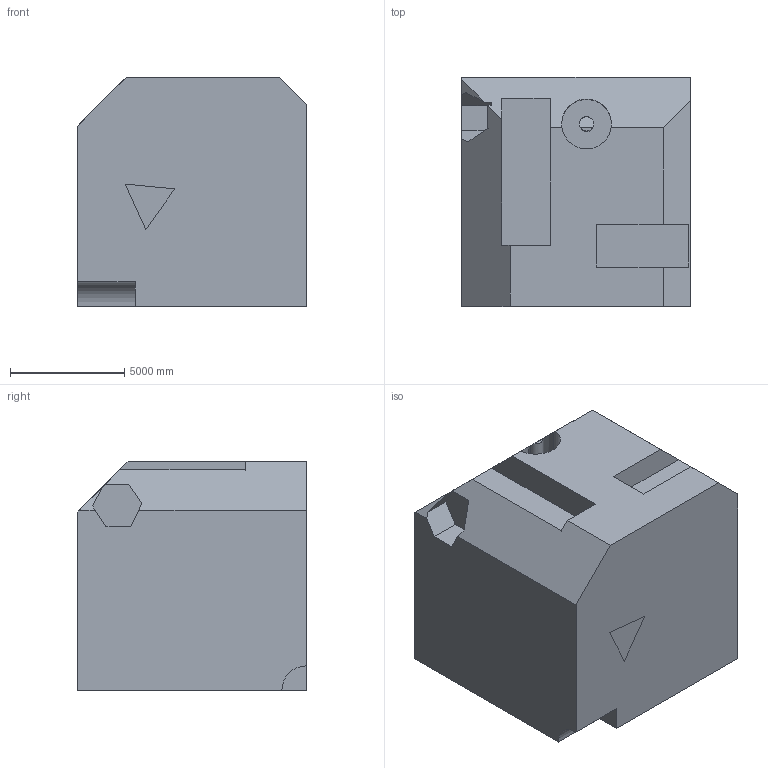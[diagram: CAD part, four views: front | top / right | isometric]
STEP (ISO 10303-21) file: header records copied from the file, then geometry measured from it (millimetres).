
FILE_DESCRIPTION (( 'STEP AP203' ), '1' );
FILE_NAME ('1879.STEP', '2022-08-19T13:55:09', ( 'user' ), ( '' ), 'SwSTEP 2.0', 'SolidWorks 2021', '' );
FILE_SCHEMA (( 'CONFIG_CONTROL_DESIGN' ));
Length unit declared in the file: centimetre
Products named in the file (1): 1879
Bounding box: 10000 x 10000 x 10000 mm (x, y, z)
Volume: 890865014068.4 mm3; surface area: 671761714.9 mm2
Topology: 1 solids, 1 shells, 38 faces, 102 edges, 68 vertices
Faces by surface type: plane 33, cylinder 5
Entity records: 1251 total; most frequent: CARTESIAN_POINT 227, ORIENTED_EDGE 204, DIRECTION 182, EDGE_CURVE 102, VECTOR 88, LINE 88, VERTEX_POINT 68, AXIS2_PLACEMENT_3D 47
